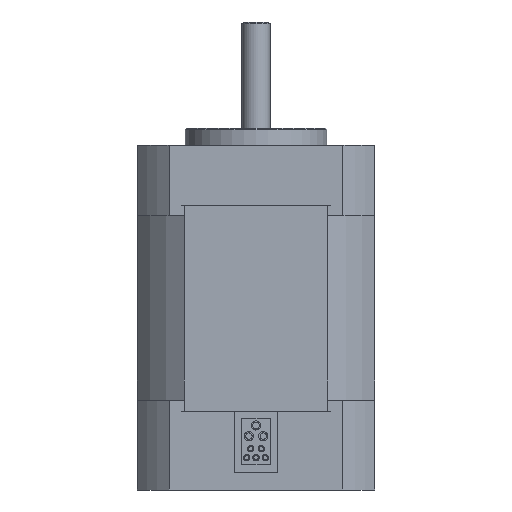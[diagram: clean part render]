
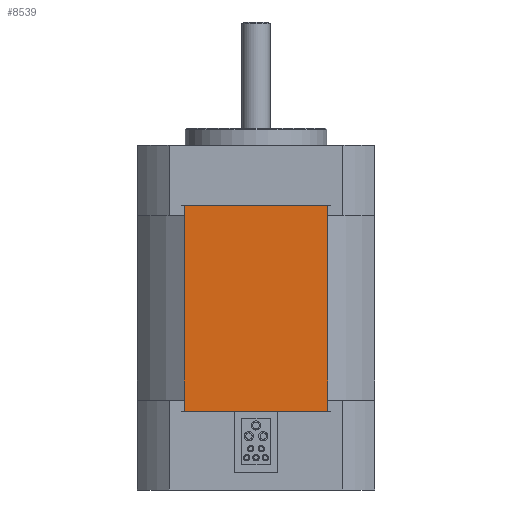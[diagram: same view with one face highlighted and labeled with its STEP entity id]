
A CAD part, front view. The second image highlights one B-rep face of the part: STEP entity #8539.
In plain terms, the highlighted planar face has unit normal (0, -1, 0).
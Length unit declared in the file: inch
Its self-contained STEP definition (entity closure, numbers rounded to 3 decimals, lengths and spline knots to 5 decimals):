
#248 = AXIS2_PLACEMENT_3D ( 'NONE', #3946, #3947, #3948 ) ;
#1708 = LINE ( 'NONE', #1710, #4584 ) ;
#1710 = CARTESIAN_POINT ( 'NONE',  ( 0.49895, -0.826, -0.42 ) ) ;
#1711 = DIRECTION ( 'NONE',  ( -1., 0., 0. ) ) ;
#2904 = EDGE_LOOP ( 'NONE', ( #7756, #7757, #7758, #7759 ) ) ;
#3113 = CARTESIAN_POINT ( 'NONE',  ( 0.49895, -0.826, -1.85 ) ) ;
#3117 = LINE ( 'NONE', #3113, #4790 ) ;
#3121 = DIRECTION ( 'NONE',  ( -1., 0., 0. ) ) ;
#3223 = CARTESIAN_POINT ( 'NONE',  ( 0.49895, -0.826, -0.42 ) ) ;
#3235 = CARTESIAN_POINT ( 'NONE',  ( -0.49895, -0.826, -0.42 ) ) ;
#3246 = CARTESIAN_POINT ( 'NONE',  ( 0.49895, -0.826, -1.85 ) ) ;
#3269 = CARTESIAN_POINT ( 'NONE',  ( -0.49895, -0.826, -1.85 ) ) ;
#3916 = PLANE ( 'NONE',  #248 ) ;
#3934 = FACE_OUTER_BOUND ( 'NONE', #2904, .T. ) ;
#3946 = CARTESIAN_POINT ( 'NONE',  ( 0.49895, -0.826, -1.85 ) ) ;
#3947 = DIRECTION ( 'NONE',  ( 0., 1., 0. ) ) ;
#3948 = DIRECTION ( 'NONE',  ( -1., 0., 0. ) ) ;
#4584 = VECTOR ( 'NONE', #1711, 39.37008 ) ;
#4790 = VECTOR ( 'NONE', #3121, 39.37008 ) ;
#5422 = EDGE_CURVE ( 'NONE', #7102, #7125, #3117, .T. ) ;
#5448 = EDGE_CURVE ( 'NONE', #7079, #7091, #1708, .T. ) ;
#5693 = EDGE_CURVE ( 'NONE', #7125, #7091, #5926, .T. ) ;
#5741 = EDGE_CURVE ( 'NONE', #7102, #7079, #6069, .T. ) ;
#5926 = LINE ( 'NONE', #5927, #8263 ) ;
#5927 = CARTESIAN_POINT ( 'NONE',  ( -0.49895, -0.826, -1.85 ) ) ;
#5928 = DIRECTION ( 'NONE',  ( 0., 0., 1. ) ) ;
#6069 = LINE ( 'NONE', #6070, #8321 ) ;
#6070 = CARTESIAN_POINT ( 'NONE',  ( 0.49895, -0.826, -1.85 ) ) ;
#6071 = DIRECTION ( 'NONE',  ( 0., 0., 1. ) ) ;
#7079 = VERTEX_POINT ( 'NONE', #3223 ) ;
#7091 = VERTEX_POINT ( 'NONE', #3235 ) ;
#7102 = VERTEX_POINT ( 'NONE', #3246 ) ;
#7125 = VERTEX_POINT ( 'NONE', #3269 ) ;
#7756 = ORIENTED_EDGE ( 'NONE', *, *, #5448, .T. ) ;
#7757 = ORIENTED_EDGE ( 'NONE', *, *, #5693, .F. ) ;
#7758 = ORIENTED_EDGE ( 'NONE', *, *, #5422, .F. ) ;
#7759 = ORIENTED_EDGE ( 'NONE', *, *, #5741, .T. ) ;
#8263 = VECTOR ( 'NONE', #5928, 39.37008 ) ;
#8321 = VECTOR ( 'NONE', #6071, 39.37008 ) ;
#8539 = ADVANCED_FACE ( 'NONE', ( #3934 ), #3916, .F. ) ;
